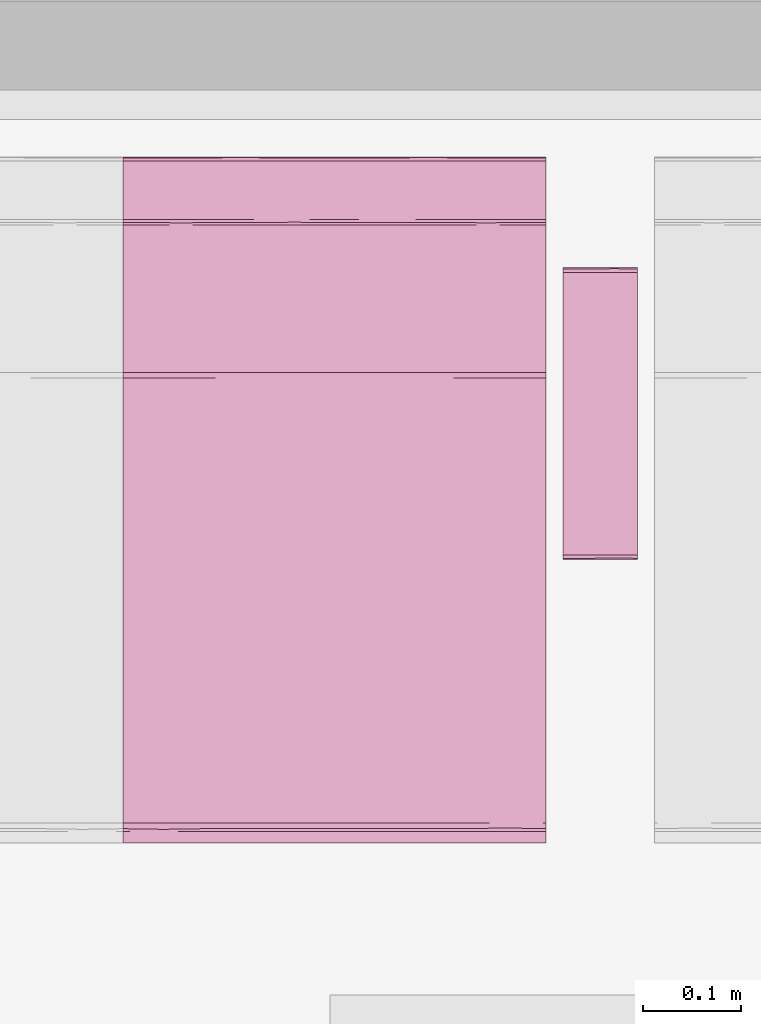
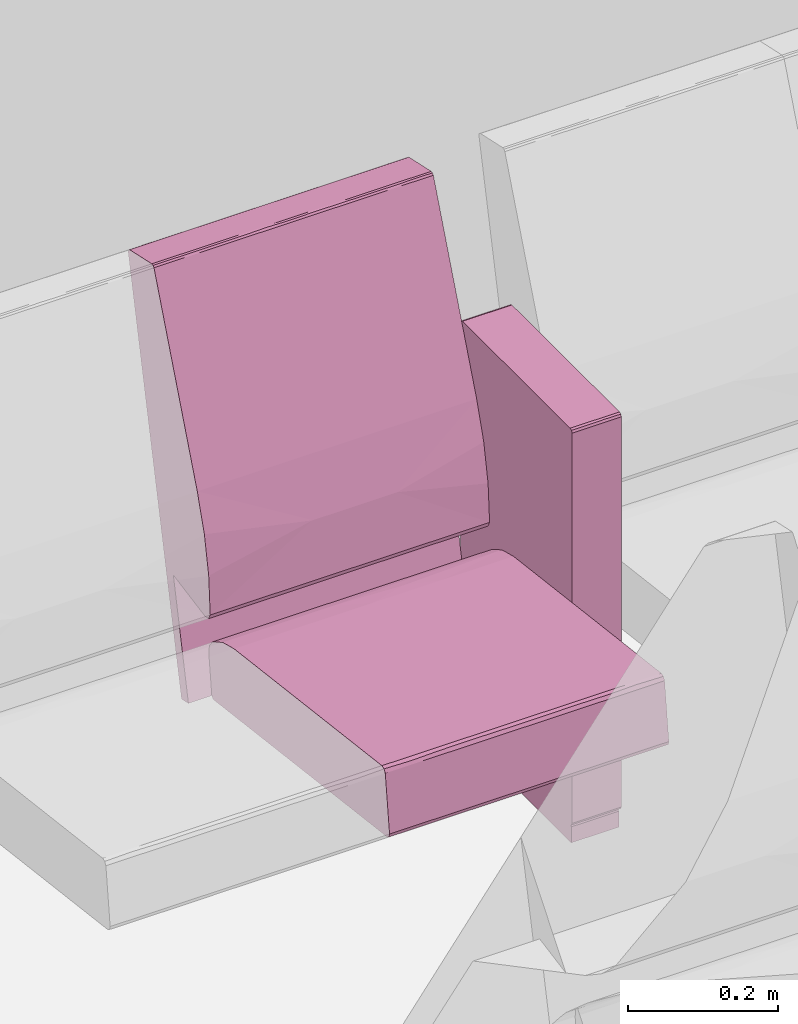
# One storey, part 126 of 155: 1 furnishing.
"""IFC2X3 building model written with IfcOpenShell, lengths in metres."""

import ifcopenshell
import ifcopenshell.guid

model = None  # the IFC model being written
_history = None  # IfcOwnerHistory: only IFC2X3 demands one
_inside = {}  # id of a spatial element -> (the spatial element, [elements in it])
_under = {}  # id of a project, library or spatial element -> (it, [spatial elements below it])
_declared = {}  # id of a project -> (the project, [libraries it declares])
_typed = {}  # id of a type object -> (the type object, [elements of that type])
_made_of = {}  # id of a material, layer set ... -> (it, [elements and type objects made of it])


def new_model(schema):
    """Start an empty IFC model of exactly this schema.

    Asked for "IFC4X3", IfcOpenShell would pick the latest addendum, in which some entities
    have other attributes; the version numbers below select the first issue.
    IFC2X3 requires an IfcOwnerHistory on every rooted entity: one is made here for all.
    """
    global model, _history
    if schema == "IFC4X3":
        model = ifcopenshell.file(schema_version=(4, 3, 0, 0))
    else:
        model = ifcopenshell.file(schema=schema)
    _inside.clear()
    _under.clear()
    _declared.clear()
    _typed.clear()
    _made_of.clear()
    _history = None
    if model.schema == "IFC2X3":
        org = make("IfcOrganization", Name="unknown")
        user = make(
            "IfcPersonAndOrganization",
            ThePerson=make("IfcPerson", FamilyName="unknown"),
            TheOrganization=org,
        )
        app = make(
            "IfcApplication",
            ApplicationDeveloper=org,
            Version="unknown",
            ApplicationFullName="unknown",
            ApplicationIdentifier="unknown",
        )
        _history = make(
            "IfcOwnerHistory",
            OwningUser=user,
            OwningApplication=app,
            ChangeAction="ADDED",
            CreationDate=0,
        )
    return model


def make(cls, **values):
    """One entity of the class cls with the attributes given. An attribute that is None is left unset."""
    return model.create_entity(
        cls, **{name: value for name, value in values.items() if value is not None}
    )


def entity(cls, *values):
    """Any entity or typed value of the class cls, its attributes in the order of the schema. None: left unset."""
    e = model.create_entity(cls)
    for i, value in enumerate(values):
        if value is not None:
            e[i] = value
    return e


def rooted(cls, **values):
    """An entity with a GlobalId (a new one), such as an element, a storey or a relation."""
    return make(cls, GlobalId=ifcopenshell.guid.new(), OwnerHistory=_history, **values)


def si_unit(unit_type, name, prefix=None):
    """IfcSIUnit, for example si_unit("LENGTHUNIT", "METRE", prefix="MILLI")."""
    return make("IfcSIUnit", UnitType=unit_type, Prefix=prefix, Name=name)


def converted_unit(unit_type, name, factor, base, dimensions=None, offset=None):
    """IfcConversionBasedUnit, such as the inch: factor (a typed value) times the base unit."""
    return make(
        "IfcConversionBasedUnit"
        if offset is None
        else "IfcConversionBasedUnitWithOffset",
        ConversionOffset=offset,
        Dimensions=None
        if dimensions is None
        else entity("IfcDimensionalExponents", *dimensions),
        UnitType=unit_type,
        Name=name,
        ConversionFactor=make(
            "IfcMeasureWithUnit", ValueComponent=factor, UnitComponent=base
        ),
    )


def derived_unit(unit_type, elements):
    """IfcDerivedUnit: a product of units, each with its exponent."""
    return make(
        "IfcDerivedUnit",
        Elements=[
            make("IfcDerivedUnitElement", Unit=unit, Exponent=power)
            for unit, power in elements
        ],
        UnitType=unit_type,
    )


def assignment(units):
    """IfcUnitAssignment: the units of a project."""
    return None if units is None else make("IfcUnitAssignment", Units=units)


def point(xyz):
    """IfcCartesianPoint."""
    return None if xyz is None else make("IfcCartesianPoint", Coordinates=xyz)


def direction(xyz):
    """IfcDirection."""
    return None if xyz is None else make("IfcDirection", DirectionRatios=xyz)


def frame(location, z_axis=None, x_axis=None):
    """IfcAxis2Placement3D, a coordinate frame: its origin and axes. An axis left out is left unset."""
    return make(
        "IfcAxis2Placement3D",
        Location=point(location),
        Axis=direction(z_axis),
        RefDirection=direction(x_axis),
    )


def origin():
    """The frame at (0, 0, 0) with its axes left unset."""
    return frame((0.0, 0.0, 0.0))


def place(relative_to, where):
    """IfcLocalPlacement: puts the frame where relative to a parent placement (None: the world)."""
    return make(
        "IfcLocalPlacement", PlacementRelTo=relative_to, RelativePlacement=where
    )


def context(
    kind, dimensions, precision=None, world=None, true_north=None, identifier=None
):
    """IfcGeometricRepresentationContext, for example the 3D "Model" context."""
    return make(
        "IfcGeometricRepresentationContext",
        ContextIdentifier=identifier,
        ContextType=kind,
        CoordinateSpaceDimension=dimensions,
        Precision=precision,
        WorldCoordinateSystem=world,
        TrueNorth=true_north,
    )


def subcontext(parent, identifier, kind, view, scale=None):
    """IfcGeometricRepresentationSubContext, for example "Body" below "Model"."""
    return make(
        "IfcGeometricRepresentationSubContext",
        ContextIdentifier=identifier,
        ContextType=kind,
        ParentContext=parent,
        TargetScale=scale,
        TargetView=view,
    )


def project(units=None, contexts=None):
    """IfcProject with its units and contexts."""
    return rooted(
        "IfcProject",
        Name="project",
        RepresentationContexts=contexts,
        UnitsInContext=assignment(units),
    )


def spatial(cls, under=None, at=None, **own):
    """A site, building, storey or space (cls), placed at a placement, below another one or the project."""
    s = rooted(cls, ObjectPlacement=at, **own)
    if under is not None:
        _under.setdefault(under.id(), (under, []))[1].append(s)
    return s


def faces_of(points, faces, orient=None, outer=None):
    """IfcFace entities. A face is a list of loops; a loop is a list of indices into points, from 0.

    orient and outer hold one flag for each loop. By default every Orientation is true, the
    first loop of a face is its IfcFaceOuterBound and the others are IfcFaceBound.
    """
    made = []
    for i, loops in enumerate(faces):
        bounds = []
        for j, loop in enumerate(loops):
            is_outer = j == 0 if outer is None else outer[i][j]
            bounds.append(
                make(
                    "IfcFaceOuterBound" if is_outer else "IfcFaceBound",
                    Bound=make("IfcPolyLoop", Polygon=[points[k] for k in loop]),
                    Orientation=True if orient is None else orient[i][j],
                )
            )
        made.append(make("IfcFace", Bounds=bounds))
    return made


def faceted_brep(points, faces, orient=None, outer=None, voids=None):
    """IfcFacetedBrep: a solid bounded by flat faces; with voids (closed shells), ...WithVoids."""
    shared = [point(p) for p in points]
    hull = make("IfcClosedShell", CfsFaces=faces_of(shared, faces, orient, outer))
    if voids is None:
        return make("IfcFacetedBrep", Outer=hull)
    return make(
        "IfcFacetedBrepWithVoids",
        Outer=hull,
        Voids=[
            make(cls, CfsFaces=faces_of(shared, fs, o, b)) for cls, fs, o, b in voids
        ],
    )


def shape(context_of_items, identifier, shape_type, items):
    """IfcShapeRepresentation: the items that make up one representation, for example the "Body"."""
    return make(
        "IfcShapeRepresentation",
        ContextOfItems=context_of_items,
        RepresentationIdentifier=identifier,
        RepresentationType=shape_type,
        Items=items,
    )


def source(mapping_origin, context_of_items, identifier, shape_type, items):
    """IfcRepresentationMap: a shape defined once, which mapped items show again and again."""
    return make(
        "IfcRepresentationMap",
        MappingOrigin=mapping_origin,
        MappedRepresentation=shape(context_of_items, identifier, shape_type, items),
    )


def transform(
    local_origin,
    x_axis=None,
    y_axis=None,
    z_axis=None,
    scale=None,
    scale2=None,
    scale3=None,
    uniform=True,
):
    """IfcCartesianTransformationOperator3D, or its non-uniform kind. x_axis, y_axis, z_axis: its Axis1, 2, 3."""
    if uniform:
        return make(
            "IfcCartesianTransformationOperator3D",
            Axis1=direction(x_axis),
            Axis2=direction(y_axis),
            LocalOrigin=point(local_origin),
            Scale=scale,
            Axis3=direction(z_axis),
        )
    return make(
        "IfcCartesianTransformationOperator3DnonUniform",
        Axis1=direction(x_axis),
        Axis2=direction(y_axis),
        LocalOrigin=point(local_origin),
        Scale=scale,
        Axis3=direction(z_axis),
        Scale2=scale2,
        Scale3=scale3,
    )


def mapped(mapping_source, mapping_target):
    """IfcMappedItem: shows the shape of a source again, moved by a transform."""
    return make(
        "IfcMappedItem", MappingSource=mapping_source, MappingTarget=mapping_target
    )


def material(Name=None, Category=None):
    """IfcMaterial."""
    return make("IfcMaterial", Name=Name, Category=Category)


def material_list(materials):
    """IfcMaterialList."""
    return make("IfcMaterialList", Materials=materials)


def made_of(thing, what):
    """Note that an element or type object is made of a material, layer set ...; save() writes the relation."""
    if what is not None:
        _made_of.setdefault(what.id(), (what, []))[1].append(thing)
    return thing


def type_object(cls, material=None, **own):
    """A type object (cls), such as IfcWallType, which elements share."""
    return made_of(rooted(cls, **own), material)


def type_shapes(of_type, sources):
    """Give a type object the sources (RepresentationMaps) that its elements show as mapped items."""
    of_type.RepresentationMaps = sources


def element(
    cls,
    number,
    at=None,
    inside=None,
    cuts=None,
    type_object=None,
    material=None,
    context=None,
    identifier="Body",
    shape_type=None,
    held_by="IfcProductDefinitionShape",
    body=None,
    shapes=None,
    **own,
):
    """One element of the class cls, such as IfcWall. Its Tag is "e" and its number.

    at: its placement. inside: the storey or other place that contains it. cuts: it is an
    opening in that element (IfcRelVoidsElement). A single representation is given by context,
    identifier, shape_type and body (its items); several are given by shapes. held_by: the class
    of the entity that holds the representations. save() writes the other relations.
    """
    e = rooted(cls, Tag="e%d" % number, ObjectPlacement=at, **own)
    if body is not None:
        shapes = [shape(context, identifier, shape_type, body)]
    if shapes is not None:
        e.Representation = make(held_by, Representations=shapes)
    if inside is not None:
        _inside.setdefault(inside.id(), (inside, []))[1].append(e)
    if cuts is not None:
        rooted(
            "IfcRelVoidsElement", RelatingBuildingElement=cuts, RelatedOpeningElement=e
        )
    if type_object is not None:
        _typed.setdefault(type_object.id(), (type_object, []))[1].append(e)
    return made_of(e, material)


def aggregate(whole, parts):
    """IfcRelAggregates: a whole, such as a stair, and the parts it consists of."""
    return rooted("IfcRelAggregates", RelatingObject=whole, RelatedObjects=parts)


def save(model, path):
    """Write the relations noted so far, then the file.

    IfcRelAggregates (storeys below a building ...), IfcRelContainedInSpatialStructure (elements
    in a storey), IfcRelDefinesByType, IfcRelAssociatesMaterial and IfcRelDeclares: one each for
    every whole, place, type object, material and project.
    """
    for whole, parts in _under.values():
        aggregate(whole, parts)
    for where, things in _inside.values():
        rooted(
            "IfcRelContainedInSpatialStructure",
            RelatedElements=things,
            RelatingStructure=where,
        )
    for kind, things in _typed.values():
        rooted("IfcRelDefinesByType", RelatedObjects=things, RelatingType=kind)
    for what, things in _made_of.values():
        rooted("IfcRelAssociatesMaterial", RelatedObjects=things, RelatingMaterial=what)
    for by, libraries in _declared.values():
        rooted("IfcRelDeclares", RelatingContext=by, RelatedDefinitions=libraries)
    model.write(path)


model = new_model("IFC2X3")

# Units and contexts
model_context = context("Model", 3, precision=1e-05, world=origin(), true_north=direction((6.12303176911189e-17, 1.0)))
body_context = subcontext(model_context, "Body", "Model", "MODEL_VIEW")
ifc_project = project(units=[si_unit("LENGTHUNIT", "METRE"), si_unit("AREAUNIT", "SQUARE_METRE"), si_unit("VOLUMEUNIT", "CUBIC_METRE"), converted_unit("PLANEANGLEUNIT", "DEGREE", entity("IfcRatioMeasure", 0.0174532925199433), si_unit("PLANEANGLEUNIT", "RADIAN"), dimensions=[0, 0, 0, 0, 0, 0, 0]), si_unit("MASSUNIT", "GRAM", prefix="KILO"), derived_unit("MASSDENSITYUNIT", [(si_unit("MASSUNIT", "GRAM", prefix="KILO"), 1), (si_unit("LENGTHUNIT", "METRE"), -3)]), si_unit("TIMEUNIT", "SECOND"), si_unit("FREQUENCYUNIT", "HERTZ"), si_unit("THERMODYNAMICTEMPERATUREUNIT", "DEGREE_CELSIUS"), derived_unit("THERMALTRANSMITTANCEUNIT", [(si_unit("MASSUNIT", "GRAM", prefix="KILO"), 1), (si_unit("THERMODYNAMICTEMPERATUREUNIT", "KELVIN"), -1), (si_unit("TIMEUNIT", "SECOND"), -3)]), derived_unit("VOLUMETRICFLOWRATEUNIT", [(si_unit("LENGTHUNIT", "METRE"), 3), (si_unit("TIMEUNIT", "SECOND"), -1)]), si_unit("ELECTRICCURRENTUNIT", "AMPERE"), si_unit("ELECTRICVOLTAGEUNIT", "VOLT"), si_unit("POWERUNIT", "WATT"), si_unit("FORCEUNIT", "NEWTON", prefix="KILO"), si_unit("ILLUMINANCEUNIT", "LUX"), si_unit("LUMINOUSFLUXUNIT", "LUMEN"), si_unit("LUMINOUSINTENSITYUNIT", "CANDELA"), derived_unit("USERDEFINED", [(si_unit("MASSUNIT", "GRAM", prefix="KILO"), -1), (si_unit("LENGTHUNIT", "METRE"), -2), (si_unit("TIMEUNIT", "SECOND"), 3), (si_unit("LUMINOUSFLUXUNIT", "LUMEN"), 1)]), derived_unit("LINEARVELOCITYUNIT", [(si_unit("LENGTHUNIT", "METRE"), 1), (si_unit("TIMEUNIT", "SECOND"), -1)]), si_unit("PRESSUREUNIT", "PASCAL"), derived_unit("USERDEFINED", [(si_unit("LENGTHUNIT", "METRE"), -2), (si_unit("MASSUNIT", "GRAM", prefix="KILO"), 1), (si_unit("TIMEUNIT", "SECOND"), -2)])], contexts=[model_context])

# Site, building, storey, space
site_placement = place(None, frame((26.9889013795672, -17.5624287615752, 0.0)))
site = spatial("IfcSite", under=ifc_project, at=site_placement, Name="Default", CompositionType="ELEMENT")
building_placement = place(site_placement, origin())
building = spatial("IfcBuilding", under=site, at=building_placement, Name="C. C. L. Monsenhor Antônio Sampaio", CompositionType="ELEMENT")
storey_placement = place(building_placement, frame((0.0, 0.0, 1.19999999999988)))
storey = spatial("IfcBuildingStorey", under=building, at=storey_placement, Name="Nível 1.2", CompositionType="ELEMENT", Elevation=1.19999999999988)
space_placement = place(storey_placement, origin())
space = spatial("IfcSpace", under=storey, at=space_placement, Name="94", CompositionType="ELEMENT", InteriorOrExteriorSpace="INTERNAL")

# Furnishing
ifc_material_1 = material(Name="V9 - V9 - Ecopelle_672_658")
ifc_material_2 = material(Name="V9 - V9 - RAL_9006_Grigio")
ifc_material_list_1 = material_list([ifc_material_1, ifc_material_2])
ifc_material_list_2 = material_list([ifc_material_1, ifc_material_2])
furniture_type = type_object("IfcFurnitureType", Name="Cadeira auditório", material=ifc_material_list_2)
shared_shape = source(origin(), body_context, "Body", "Brep", [
    faceted_brep([(0.405536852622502, -0.1075, 0.339809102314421), (0.410560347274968, -0.131924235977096, 0.34246450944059), (0.405536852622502, -0.156348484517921, 0.339809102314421), (0.41079981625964, -0.0179166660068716, 0.342749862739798), (0.410597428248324, -0.084060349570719, 0.342506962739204), (0.405536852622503, -0.0537499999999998, 0.339809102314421), (0.410248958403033, -0.173608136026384, 0.342130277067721), (0.405536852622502, -0.215, 0.339809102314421), (0.412515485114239, -0.143333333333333, 0.348529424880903), (0.412515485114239, -0.185674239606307, 0.348529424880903), (0.405536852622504, 0.1075, 0.33980910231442), (0.405536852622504, 0.156348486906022, 0.33980910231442), (0.410560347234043, 0.131924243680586, 0.342464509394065), (0.405536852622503, 0.0, 0.33980910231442), (0.411170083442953, 0.0341365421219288, 0.343251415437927), (0.41251548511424, 0.0, 0.348529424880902), (0.412515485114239, -0.0358333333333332, 0.348529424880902), (0.412515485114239, -0.0716666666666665, 0.348529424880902), (0.41251548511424, 0.143333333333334, 0.348529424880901), (0.41059742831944, 0.0840603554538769, 0.342506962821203), (0.405536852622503, 0.0537500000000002, 0.33980910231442), (0.410248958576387, 0.173608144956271, 0.342130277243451), (0.410799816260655, 0.215, 0.342749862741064), (0.412515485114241, 0.185674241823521, 0.348529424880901), (0.412515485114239, -0.215, 0.348529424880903), (0.410799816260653, -0.215, 0.342749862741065), (0.412515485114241, 0.215, 0.348529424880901), (0.41251548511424, 0.0716666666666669, 0.348529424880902), (0.405536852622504, 0.215, 0.33980910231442), (-0.0557900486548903, -0.215, 0.28268145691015), (-0.0557900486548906, -0.1881249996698, 0.282681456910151), (-0.0557900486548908, -0.161250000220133, 0.282681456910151), (-0.055790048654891, -0.134374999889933, 0.282681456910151), (-0.0557900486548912, -0.107499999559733, 0.282681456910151), (-0.0557900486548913, -0.0806250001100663, 0.282681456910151), (-0.0557900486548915, -0.0537499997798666, 0.282681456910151), (-0.0557900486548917, -0.0268749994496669, 0.282681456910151), (-0.0557900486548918, 0.0, 0.28268145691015), (-0.0557900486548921, 0.0268750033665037, 0.282681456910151), (-0.0557900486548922, 0.0537499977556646, 0.282681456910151), (-0.0557900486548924, 0.0806249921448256, 0.282681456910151), (-0.0557900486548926, 0.107499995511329, 0.282681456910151), (-0.0557900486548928, 0.138065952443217, 0.282681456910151), (-0.055790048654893, 0.168631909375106, 0.282681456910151), (-0.0557900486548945, 0.215, 0.28268145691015), (-0.0594787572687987, -0.0179017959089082, 0.283700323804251), (-0.0613666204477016, 0.0, 0.287029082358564), (-0.0594787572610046, 0.0152829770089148, 0.283700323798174), (-0.0594787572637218, -0.215, 0.283700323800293), (-0.0613666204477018, -0.215, 0.287029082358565), (-0.0613666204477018, -0.191815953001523, 0.287029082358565), (-0.0613666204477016, -0.030565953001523, 0.287029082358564), (-0.0593340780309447, -0.0671874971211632, 0.283591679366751), (-0.0593337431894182, 0.184174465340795, 0.283591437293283), (-0.0594787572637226, 0.215, 0.283700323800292), (-0.0593023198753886, 0.0940625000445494, 0.283568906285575), (-0.0613666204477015, 0.0611319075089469, 0.287029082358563), (-0.0613666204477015, 0.0916978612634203, 0.287029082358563), (-0.0613666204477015, 0.122263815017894, 0.287029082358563), (-0.0597338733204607, -0.147039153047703, 0.283913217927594), (-0.0613666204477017, -0.122263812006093, 0.287029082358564), (-0.059382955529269, -0.118123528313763, 0.28362747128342), (-0.0592501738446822, -0.180223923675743, 0.283532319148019), (-0.0613666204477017, -0.168631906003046, 0.287029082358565), (-0.0588783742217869, -0.0926899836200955, 0.283298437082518), (-0.0613666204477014, 0.168631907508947, 0.287029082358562), (-0.0613666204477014, 0.215, 0.287029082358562), (-0.0592576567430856, 0.123736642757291, 0.283537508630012), (-0.0594787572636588, 0.153348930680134, 0.283700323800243), (-0.0613666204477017, -0.0916978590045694, 0.287029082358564), (-0.0613666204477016, 0.0305659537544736, 0.287029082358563), (-0.059645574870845, 0.045848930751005, 0.283836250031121), (-0.0613666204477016, -0.0611319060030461, 0.287029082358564), (-0.0693403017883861, 0.143333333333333, 0.351419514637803), (-0.069340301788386, 0.215, 0.351419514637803), (-0.0693403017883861, -0.215, 0.351419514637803), (-0.0693403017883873, -0.143333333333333, 0.351419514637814), (-0.069340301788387, -0.0716666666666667, 0.351419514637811), (-0.0693403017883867, 0.0, 0.351419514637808), (-0.0693403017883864, 0.0716666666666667, 0.351419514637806), (-0.0653387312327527, -0.0126787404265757, 0.368680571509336), (-0.0645543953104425, -0.112272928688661, 0.369803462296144), (-0.0597085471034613, 0.0, 0.37476954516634), (-0.0655136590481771, 0.104400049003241, 0.368411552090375), (-0.0681665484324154, 0.0888707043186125, 0.36292533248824), (-0.0694879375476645, -0.0590582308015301, 0.356377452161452), (-0.0695056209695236, 0.125492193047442, 0.356093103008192), (-0.0597085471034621, 0.110316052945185, 0.374769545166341), (-0.0676206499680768, -0.215, 0.364371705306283), (-0.0672851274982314, -0.108066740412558, 0.365148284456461), (-0.0690003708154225, -0.132942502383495, 0.359900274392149), (-0.068624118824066, -0.215, 0.356813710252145), (-0.0686241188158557, 0.214999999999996, 0.356813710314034), (-0.0694502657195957, 0.0358333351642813, 0.356863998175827), (-0.0686999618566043, -0.035833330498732, 0.36116674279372), (-0.067620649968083, 0.214999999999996, 0.364371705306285), (-0.063664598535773, 0.214999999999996, 0.369570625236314), (-0.0597085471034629, 0.214999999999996, 0.374769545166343), (-0.0597085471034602, -0.110316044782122, 0.374769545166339), (-0.0636645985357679, -0.215, 0.36957062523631), (-0.0597085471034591, -0.215, 0.374769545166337), (-0.0018793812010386, -0.215, 0.398686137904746), (-0.0324117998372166, -0.0436847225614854, 0.39063968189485), (-0.0324117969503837, -0.215, 0.390639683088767), (-0.041847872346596, 0.0856576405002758, 0.386239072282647), (-0.00187938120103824, 0.102488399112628, 0.398686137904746), (-0.00187938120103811, 0.215, 0.398686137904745), (-0.0324117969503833, 0.215, 0.390639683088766), (-0.0219042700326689, 0.0570631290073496, 0.394412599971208), (-0.00187938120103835, 0.0, 0.398686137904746), (0.392202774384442, -0.215, 0.447486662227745), (0.392202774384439, -0.156349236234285, 0.447486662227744), (0.392202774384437, -0.107499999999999, 0.447486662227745), (0.392202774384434, -0.0537499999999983, 0.447486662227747), (0.392202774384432, 0.0, 0.447486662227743), (0.392202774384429, 0.0537500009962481, 0.44748666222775), (0.392202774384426, 0.107500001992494, 0.447486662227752), (0.392202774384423, 0.156349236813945, 0.447486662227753), (0.392202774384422, 0.215, 0.447486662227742), (0.397860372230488, 0.0827732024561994, 0.446039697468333), (0.401125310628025, 0.0976984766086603, 0.440530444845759), (0.398104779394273, 0.131924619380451, 0.445856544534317), (0.397373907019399, 0.173462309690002, 0.446363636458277), (0.401125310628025, 0.156349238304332, 0.440530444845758), (0.401125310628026, 0.215000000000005, 0.440530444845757), (0.398104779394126, 0.215000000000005, 0.445856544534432), (0.397860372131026, -0.0827731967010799, 0.446039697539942), (0.398104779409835, -0.131924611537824, 0.445856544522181), (0.398104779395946, -0.0268749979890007, 0.445856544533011), (0.398104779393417, 0.0237489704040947, 0.445856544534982), (0.401125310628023, -0.0488492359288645, 0.440530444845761), (0.401125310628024, 0.0488492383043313, 0.44053044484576), (0.398774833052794, -0.173462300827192, 0.445271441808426), (0.401125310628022, -0.0976984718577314, 0.440530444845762), (0.39810477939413, -0.215, 0.445856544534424), (0.401125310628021, -0.215, 0.440530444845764), (0.401125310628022, -0.156349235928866, 0.440530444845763), (0.401125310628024, 0.0, 0.44053044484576)], [[[0, 1, 2]], [[3, 4, 5]], [[2, 6, 7]], [[8, 9, 6]], [[10, 11, 12]], [[13, 3, 5]], [[3, 14, 15]], [[1, 4, 8]], [[6, 1, 8]], [[4, 3, 16]], [[16, 17, 8, 4]], [[12, 18, 19]], [[4, 1, 0]], [[20, 14, 13]], [[21, 22, 23]], [[15, 16, 3]], [[9, 24, 25]], [[26, 23, 22]], [[7, 6, 25]], [[12, 11, 21]], [[19, 14, 20]], [[4, 0, 5]], [[14, 27, 15]], [[13, 14, 3]], [[19, 18, 27]], [[19, 10, 12]], [[18, 21, 23]], [[10, 19, 20]], [[19, 27, 14]], [[2, 1, 6]], [[21, 11, 28]], [[25, 6, 9]], [[18, 12, 21]], [[22, 21, 28]], [[28, 11, 10, 20, 13, 5, 0, 2, 7, 29, 30, 31, 32, 33, 34, 35, 36, 37, 38, 39, 40, 41, 42, 43, 44]], [[45, 46, 47]], [[48, 49, 50]], [[51, 45, 52]], [[53, 54, 44]], [[55, 56, 57, 58]], [[59, 60, 61]], [[62, 63, 59]], [[34, 64, 52]], [[53, 65, 66]], [[41, 67, 42]], [[37, 36, 35, 45, 47, 38]], [[43, 42, 68]], [[29, 48, 30]], [[59, 31, 62]], [[62, 48, 50]], [[61, 69, 64]], [[65, 53, 68]], [[50, 63, 62]], [[62, 30, 48]], [[55, 58, 67]], [[32, 31, 59]], [[46, 70, 47]], [[65, 68, 58]], [[55, 40, 71]], [[70, 56, 71]], [[61, 33, 32]], [[59, 63, 60]], [[39, 38, 71, 40]], [[47, 71, 38]], [[51, 46, 45]], [[70, 71, 47]], [[71, 56, 55]], [[40, 55, 41]], [[67, 68, 42]], [[43, 68, 53]], [[43, 53, 44]], [[66, 54, 53]], [[68, 67, 58]], [[55, 67, 41]], [[72, 51, 52, 69]], [[62, 31, 30]], [[59, 61, 32]], [[35, 52, 45]], [[64, 34, 33]], [[34, 52, 35]], [[61, 60, 69]], [[52, 64, 69]], [[61, 64, 33]], [[73, 74, 66, 65, 58, 57, 56, 70, 46, 51, 72, 69, 60, 63, 50, 49, 75, 76, 77, 78, 79]], [[80, 81, 82]], [[83, 84, 80]], [[85, 78, 77, 76]], [[73, 79, 86]], [[80, 82, 83]], [[87, 83, 82]], [[88, 89, 90]], [[76, 75, 91]], [[92, 74, 73]], [[91, 90, 85]], [[80, 89, 81]], [[84, 93, 94]], [[84, 86, 93]], [[93, 78, 85]], [[73, 86, 92]], [[94, 93, 85]], [[95, 92, 84]], [[78, 93, 79]], [[80, 84, 94]], [[83, 96, 95]], [[94, 85, 90]], [[87, 97, 96]], [[98, 99, 100]], [[91, 85, 76]], [[94, 90, 89]], [[90, 91, 88]], [[89, 80, 94]], [[89, 99, 81]], [[89, 88, 99]], [[82, 81, 98]], [[81, 99, 98]], [[92, 86, 84]], [[93, 86, 79]], [[84, 83, 95]], [[96, 83, 87]], [[101, 102, 103]], [[104, 97, 87, 82]], [[105, 106, 107]], [[107, 108, 105]], [[109, 102, 101]], [[82, 102, 104]], [[102, 108, 104]], [[103, 102, 100]], [[97, 104, 107]], [[104, 108, 107]], [[102, 82, 98, 100]], [[105, 108, 109]], [[108, 102, 109]], [[109, 101, 110, 111, 112, 113, 114, 115, 116, 117, 118, 106, 105]], [[119, 120, 121]], [[122, 123, 124]], [[122, 125, 118]], [[126, 113, 112]], [[117, 121, 122]], [[121, 117, 116]], [[112, 111, 127]], [[113, 128, 129, 115, 114]], [[126, 130, 128]], [[129, 131, 119]], [[111, 132, 127]], [[132, 111, 110]], [[133, 126, 127]], [[123, 122, 121]], [[132, 134, 135]], [[127, 132, 136]], [[123, 121, 120]], [[127, 136, 133]], [[129, 128, 130, 137, 131]], [[112, 127, 126]], [[126, 133, 130]], [[119, 121, 116]], [[113, 126, 128]], [[119, 115, 129]], [[119, 116, 115]], [[120, 119, 131]], [[117, 122, 118]], [[124, 125, 122]], [[136, 132, 135]], [[110, 134, 132]], [[137, 130, 133, 136, 135, 24, 9, 8, 17, 16, 15, 27, 18, 23, 26, 124, 123, 120, 131]], [[44, 54, 66, 74, 92, 95, 96, 97, 107, 106, 118, 125, 124, 26, 22, 28]], [[75, 49, 48, 29, 7, 25, 24, 135, 134, 110, 101, 103, 100, 99, 88, 91]]]),
    faceted_brep([(0.119812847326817, 0.27, 0.674900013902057), (0.12334838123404, 0.259944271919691, 0.6734355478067), (0.123144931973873, 0.283972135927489, 0.673627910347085), (0.124812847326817, 0.27, 0.669900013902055), (0.119812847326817, 0.232, 0.674900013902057), (0.12334838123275, 0.232, 0.673435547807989), (0.124812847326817, 0.308, 0.669900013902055), (0.119812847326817, 0.308, 0.674900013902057), (0.124812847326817, 0.249888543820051, 0.669900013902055), (0.124812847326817, 0.232, 0.669900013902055), (0.12334838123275, 0.308, 0.673435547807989), (0.124812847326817, 0.232, 0.0349999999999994), (0.124812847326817, 0.27, 0.035), (0.124812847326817, 0.308, 0.035), (0.12334838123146, 0.25994427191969, 0.0314644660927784), (0.123540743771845, 0.283972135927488, 0.0316679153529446), (0.119812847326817, 0.27, 0.0300000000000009), (0.12334838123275, 0.232, 0.0314644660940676), (0.119812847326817, 0.308, 0.0300000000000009), (0.119812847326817, 0.249888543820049, 0.030000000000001), (0.119812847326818, 0.232, 0.030000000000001), (0.123348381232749, 0.308, 0.0314644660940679), (-0.167179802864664, 0.27, 0.0300000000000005), (-0.167179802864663, 0.308, 0.0300000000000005), (-0.167179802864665, 0.232, 0.0300000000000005), (-0.170715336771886, 0.25994427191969, 0.0314644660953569), (-0.17051188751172, 0.283972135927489, 0.0312721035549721), (-0.172179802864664, 0.27, 0.0350000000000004), (-0.170715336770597, 0.232, 0.0314644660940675), (-0.172179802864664, 0.308, 0.0350000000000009), (-0.172179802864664, 0.24988854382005, 0.0350000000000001), (-0.172179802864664, 0.232, 0.0349999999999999), (-0.170715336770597, 0.308, 0.0314644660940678), (-0.172179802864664, 0.308, 0.669900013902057), (-0.172179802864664, 0.232, 0.669900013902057), (-0.172179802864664, 0.27, 0.669900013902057), (-0.170715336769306, 0.259944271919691, 0.673435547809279), (-0.170907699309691, 0.283972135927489, 0.673232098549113), (-0.167179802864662, 0.27, 0.674900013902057), (-0.170715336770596, 0.232, 0.67343554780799), (-0.167179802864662, 0.308, 0.674900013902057), (-0.167179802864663, 0.249888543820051, 0.674900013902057), (-0.167179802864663, 0.232, 0.674900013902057), (-0.170715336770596, 0.308, 0.67343554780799)], [[[0, 1, 2]], [[3, 2, 1]], [[0, 4, 5, 1]], [[2, 3, 6]], [[0, 2, 7]], [[8, 3, 1, 5, 9]], [[7, 2, 10]], [[6, 10, 2]], [[9, 11, 12, 13, 6, 3, 8]], [[12, 14, 15]], [[16, 15, 14]], [[12, 11, 17, 14]], [[15, 16, 18]], [[12, 15, 13]], [[19, 16, 14, 17, 20]], [[13, 15, 21]], [[18, 21, 15]], [[22, 23, 18, 16, 19, 20, 24]], [[22, 25, 26]], [[27, 26, 25]], [[22, 24, 28, 25]], [[26, 27, 29]], [[22, 26, 23]], [[30, 27, 25, 28, 31]], [[23, 26, 32]], [[29, 32, 26]], [[33, 29, 27, 30, 31, 34, 35]], [[35, 36, 37]], [[38, 37, 36]], [[35, 34, 39, 36]], [[37, 38, 40]], [[35, 37, 33]], [[41, 38, 36, 39, 42]], [[33, 37, 43]], [[40, 43, 37]], [[0, 7, 40, 38, 41, 42, 4]], [[42, 39, 34, 31, 28, 24, 20, 17, 11, 9, 5, 4]], [[23, 32, 29, 33, 43, 40, 7, 10, 6, 13, 21, 18]]]),
    faceted_brep([(-0.0655618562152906, -0.215, 0.415143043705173), (-0.0744051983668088, -0.0524423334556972, 0.506888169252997), (-0.0695672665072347, -0.215, 0.476508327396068), (-0.0655618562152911, 0.0, 0.415143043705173), (-0.0744051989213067, 0.0780075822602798, 0.506888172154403), (-0.0655618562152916, 0.1075, 0.415143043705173), (-0.0655618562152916, 0.215, 0.415143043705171), (-0.0655618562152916, -0.1075, 0.415143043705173), (-0.0695672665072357, 0.215, 0.476508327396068), (-0.0811110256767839, 0.215, 0.536911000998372), (-0.0811110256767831, -0.215, 0.536911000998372), (-0.100016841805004, 0.0, 0.595428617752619), (-0.100016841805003, -0.215, 0.595428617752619), (-0.100016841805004, 0.215, 0.595428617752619), (-0.0792851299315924, -0.0716666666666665, 0.404772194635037), (-0.0792851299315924, 0.0, 0.404772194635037), (-0.0698317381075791, -0.0358333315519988, 0.406528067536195), (-0.0698317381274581, 0.215, 0.406528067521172), (-0.0792851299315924, 0.143333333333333, 0.404772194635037), (-0.0792851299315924, 0.215, 0.404772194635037), (-0.0698317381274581, -0.215, 0.406528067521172), (-0.0792851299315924, -0.215, 0.404772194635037), (-0.0792851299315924, -0.143333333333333, 0.404772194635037), (-0.0694171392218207, -0.140338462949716, 0.406857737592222), (-0.0708115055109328, 0.0356393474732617, 0.405868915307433), (-0.0703502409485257, 0.107500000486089, 0.406159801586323), (-0.0792851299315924, 0.0716666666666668, 0.404772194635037), (-0.163837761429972, 0.215, 0.420611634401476), (-0.163837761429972, -0.215, 0.420611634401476), (-0.123612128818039, -0.215, 0.235917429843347), (-0.123612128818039, 0.215, 0.235917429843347), (-0.142059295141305, -0.215, 0.231899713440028), (-0.142059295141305, 0.215, 0.231899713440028), (-0.235388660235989, -0.215, 0.652619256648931), (-0.235388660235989, 0.215, 0.652619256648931), (-0.28428001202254, 0.0, 0.873004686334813), (-0.284280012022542, 0.0268749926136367, 0.873004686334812), (-0.284280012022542, 0.0537499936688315, 0.873004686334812), (-0.284280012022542, 0.0806249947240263, 0.873004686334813), (-0.284280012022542, 0.107499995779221, 0.873004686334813), (-0.284280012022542, 0.134374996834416, 0.873004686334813), (-0.284280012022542, 0.161249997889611, 0.873004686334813), (-0.284280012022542, 0.191295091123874, 0.873004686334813), (-0.28428001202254, 0.215, 0.873004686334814), (-0.284280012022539, -0.215, 0.873004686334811), (-0.28428001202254, -0.191295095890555, 0.873004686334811), (-0.284280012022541, -0.161249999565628, 0.873004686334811), (-0.284280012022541, -0.134374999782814, 0.873004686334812), (-0.284280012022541, -0.1075, 0.873004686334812), (-0.284280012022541, -0.0806250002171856, 0.873004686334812), (-0.284280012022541, -0.0537500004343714, 0.873004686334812), (-0.284280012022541, -0.0268749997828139, 0.873004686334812), (-0.283504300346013, -0.0569644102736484, 0.877068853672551), (-0.283746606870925, -0.0872244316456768, 0.876674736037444), (-0.283641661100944, 0.12093750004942, 0.876855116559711), (-0.283567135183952, 0.15546176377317, 0.876973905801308), (-0.28330409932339, -0.185293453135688, 0.877344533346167), (-0.283567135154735, -0.155461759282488, 0.876973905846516), (-0.280514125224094, 0.0, 0.879190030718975), (-0.280514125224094, 0.0358333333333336, 0.879190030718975), (-0.283641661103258, 0.0136463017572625, 0.876855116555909), (-0.283641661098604, -0.0179166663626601, 0.876855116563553), (-0.280514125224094, -0.0358333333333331, 0.879190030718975), (-0.280514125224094, 0.1075, 0.879190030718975), (-0.280514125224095, 0.143333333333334, 0.879190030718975), (-0.283746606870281, 0.0872244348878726, 0.876674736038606), (-0.280514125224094, 0.071666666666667, 0.879190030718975), (-0.280514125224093, -0.1075, 0.879190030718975), (-0.280514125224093, -0.0716666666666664, 0.879190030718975), (-0.280514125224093, -0.143333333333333, 0.879190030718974), (-0.283641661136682, -0.120937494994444, 0.876855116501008), (-0.283641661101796, -0.215, 0.876855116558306), (-0.283641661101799, 0.215, 0.876855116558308), (-0.280514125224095, 0.167590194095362, 0.879190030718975), (-0.283304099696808, 0.18529345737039, 0.877344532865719), (-0.280514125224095, 0.215, 0.879190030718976), (-0.280514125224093, -0.167590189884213, 0.879190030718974), (-0.280514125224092, -0.215, 0.879190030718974), (-0.283504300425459, 0.0569644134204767, 0.8770688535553), (-0.221112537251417, -0.215, 0.892176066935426), (-0.221112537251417, -0.19181594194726, 0.892176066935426), (-0.221112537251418, -0.16124999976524, 0.892176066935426), (-0.221112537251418, -0.13437499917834, 0.892176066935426), (-0.221112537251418, -0.10749999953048, 0.892176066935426), (-0.221112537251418, -0.08062499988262, 0.892176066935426), (-0.221112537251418, -0.0537500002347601, 0.892176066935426), (-0.221112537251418, -0.0268750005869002, 0.892176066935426), (-0.221112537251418, 0.0, 0.892176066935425), (-0.221112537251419, 0.0268750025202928, 0.892176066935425), (-0.221112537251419, 0.053749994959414, 0.892176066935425), (-0.221112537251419, 0.0806249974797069, 0.892176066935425), (-0.221112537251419, 0.1075, 0.892176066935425), (-0.221112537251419, 0.134375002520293, 0.892176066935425), (-0.221112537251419, 0.161250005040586, 0.892176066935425), (-0.221112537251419, 0.191815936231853, 0.892176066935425), (-0.221112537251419, 0.215, 0.892176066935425), (-0.217722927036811, -0.0162353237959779, 0.891719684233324), (-0.215419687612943, -0.0358333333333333, 0.889191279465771), (-0.215419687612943, 0.0, 0.889191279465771), (-0.217722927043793, 0.0134375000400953, 0.891719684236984), (-0.217722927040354, 0.120937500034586, 0.89171968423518), (-0.217722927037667, 0.0912646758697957, 0.891719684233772), (-0.215419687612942, 0.0716666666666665, 0.88919127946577), (-0.215419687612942, 0.1075, 0.88919127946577), (-0.215419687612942, 0.143333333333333, 0.88919127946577), (-0.217722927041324, 0.215, 0.891719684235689), (-0.217722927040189, 0.182482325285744, 0.891719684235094), (-0.215419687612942, 0.168631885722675, 0.889191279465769), (-0.215419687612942, 0.191815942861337, 0.889191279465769), (-0.215419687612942, 0.215, 0.889191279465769), (-0.217722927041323, -0.215, 0.89171968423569), (-0.215419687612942, -0.215, 0.889191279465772), (-0.215419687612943, -0.191815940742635, 0.889191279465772), (-0.217722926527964, -0.190103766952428, 0.891719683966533), (-0.2179983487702, 0.039082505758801, 0.891853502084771), (-0.217816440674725, 0.0647800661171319, 0.891767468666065), (-0.217558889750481, 0.155982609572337, 0.891629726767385), (-0.217722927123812, -0.120937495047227, 0.891719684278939), (-0.217558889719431, -0.15598260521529, 0.891629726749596), (-0.215419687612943, -0.143333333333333, 0.889191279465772), (-0.215419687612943, -0.16863188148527, 0.889191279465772), (-0.215419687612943, -0.0716666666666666, 0.889191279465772), (-0.217816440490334, -0.0647800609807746, 0.891767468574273), (-0.217722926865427, -0.0912646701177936, 0.891719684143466), (-0.215419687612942, 0.0358333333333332, 0.889191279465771), (-0.215419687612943, -0.1075, 0.889191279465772), (-0.218257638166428, -0.0404491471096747, 0.891961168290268)], [[[0, 1, 2]], [[3, 4, 1]], [[4, 3, 5, 6]], [[1, 0, 7, 3]], [[8, 4, 6]], [[9, 4, 8]], [[1, 10, 2]], [[1, 11, 12]], [[9, 13, 4]], [[13, 11, 4]], [[10, 1, 12]], [[11, 1, 4]], [[14, 15, 16]], [[17, 18, 19]], [[20, 21, 22]], [[20, 23, 0]], [[3, 7, 16]], [[15, 24, 16]], [[24, 25, 5]], [[22, 23, 20]], [[7, 23, 16]], [[6, 5, 17]], [[16, 24, 3]], [[16, 23, 14]], [[23, 22, 14]], [[18, 25, 26]], [[18, 17, 25]], [[26, 24, 15]], [[7, 0, 23]], [[5, 25, 17]], [[25, 24, 26]], [[3, 24, 5]], [[27, 19, 18, 26, 15, 14, 22, 21, 28]], [[27, 28, 29, 30]], [[31, 32, 30, 29]], [[33, 34, 32, 31]], [[35, 36, 37, 38, 39, 40, 41, 42, 43, 34, 33, 44, 45, 46, 47, 48, 49, 50, 51]], [[52, 49, 53]], [[54, 55, 40]], [[46, 56, 57]], [[58, 59, 60, 61, 62]], [[54, 63, 64]], [[65, 66, 63]], [[67, 68, 53]], [[57, 69, 70]], [[45, 56, 46]], [[39, 54, 40]], [[45, 44, 71]], [[72, 43, 42]], [[35, 51, 61, 60, 36]], [[55, 73, 74]], [[39, 65, 54]], [[74, 73, 75]], [[67, 53, 70]], [[74, 42, 41]], [[64, 73, 55]], [[56, 76, 57]], [[74, 72, 42]], [[76, 56, 77]], [[56, 71, 77]], [[57, 76, 69]], [[48, 70, 53]], [[70, 48, 47]], [[60, 78, 36]], [[63, 54, 65]], [[71, 56, 45]], [[41, 55, 74]], [[72, 74, 75]], [[57, 70, 47]], [[47, 46, 57]], [[69, 67, 70]], [[50, 49, 52, 51]], [[52, 62, 61]], [[61, 51, 52]], [[55, 41, 40]], [[55, 54, 64]], [[66, 65, 78]], [[65, 38, 78]], [[52, 53, 68]], [[37, 36, 78, 38]], [[78, 59, 66]], [[59, 78, 60]], [[49, 48, 53]], [[65, 39, 38]], [[52, 68, 62]], [[79, 80, 81, 82, 83, 84, 85, 86, 87, 88, 89, 90, 91, 92, 93, 94, 95, 75, 73, 64, 63, 66, 59, 58, 62, 68, 67, 69, 76, 77]], [[96, 97, 98, 99]], [[100, 101, 102, 103, 104]], [[105, 106, 107, 108, 109]], [[110, 111, 112]], [[80, 110, 113]], [[89, 114, 115]], [[92, 116, 93]], [[94, 93, 106, 105, 95]], [[80, 79, 110]], [[92, 91, 90, 101, 100]], [[99, 88, 87, 86, 96]], [[104, 107, 116]], [[117, 83, 82]], [[117, 118, 119]], [[112, 120, 113]], [[118, 120, 119]], [[118, 81, 113]], [[116, 107, 106]], [[101, 90, 115]], [[121, 122, 123]], [[104, 116, 100]], [[110, 112, 113]], [[114, 99, 124]], [[92, 100, 116]], [[117, 125, 123]], [[82, 81, 118]], [[118, 117, 82]], [[83, 117, 123]], [[125, 117, 119]], [[102, 101, 115]], [[84, 83, 123]], [[123, 125, 121]], [[85, 84, 122]], [[89, 115, 90]], [[96, 86, 126]], [[124, 102, 115]], [[88, 99, 114]], [[99, 98, 124]], [[122, 121, 97]], [[126, 122, 97]], [[88, 114, 89]], [[115, 114, 124]], [[123, 122, 84]], [[126, 85, 122]], [[85, 126, 86]], [[96, 126, 97]], [[116, 106, 93]], [[80, 113, 81]], [[118, 113, 120]], [[12, 11, 13, 109, 108, 107, 104, 103, 102, 124, 98, 97, 121, 125, 119, 120, 112, 111]], [[30, 32, 34, 43, 72, 75, 95, 105, 109, 13, 9, 8, 6, 17, 19, 27]], [[77, 71, 44, 33, 31, 29, 28, 21, 20, 0, 2, 10, 12, 111, 110, 79]]]),
    faceted_brep([(0.120312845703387, 0.2335, 0.0), (0.120312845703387, 0.3065, 0.0), (0.120312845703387, 0.3065, 0.0260000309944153), (0.120312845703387, 0.27, 0.0260000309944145), (0.120312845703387, 0.249500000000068, 0.0260000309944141), (0.120312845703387, 0.2335, 0.0260000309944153), (-0.167687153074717, 0.2335, 0.0), (-0.167687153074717, 0.3065, 0.0), (-0.167687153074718, 0.3065, 0.0260000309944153), (-0.167687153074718, 0.2335, 0.0260000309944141), (-0.167687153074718, 0.27, 0.0260000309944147), (-0.163702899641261, 0.233500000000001, 0.0300000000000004), (-0.166521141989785, 0.257382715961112, 0.0288228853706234), (-0.166521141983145, 0.233500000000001, 0.0288228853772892), (-0.166521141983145, 0.3065, 0.0288228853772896), (-0.16652114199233, 0.279986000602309, 0.0288228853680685), (-0.163702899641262, 0.3065, 0.0300000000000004), (-0.163702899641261, 0.27, 0.0300000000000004), (0.116297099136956, 0.2335, 0.0300000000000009), (0.116297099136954, 0.270000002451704, 0.0300000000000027), (0.116297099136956, 0.3065, 0.0300000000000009), (0.119033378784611, 0.283124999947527, 0.0289323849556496), (0.119135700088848, 0.259750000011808, 0.0288340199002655), (0.1191357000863, 0.2335, 0.0288340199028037), (0.119135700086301, 0.3065, 0.0288340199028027)], [[[0, 1, 2, 3, 4, 5]], [[6, 7, 1, 0]], [[8, 7, 6, 9, 10]], [[11, 12, 13]], [[14, 15, 16]], [[17, 16, 15, 12, 11]], [[13, 12, 10, 9]], [[8, 15, 14]], [[12, 15, 8, 10]], [[16, 17, 11, 18, 19, 20]], [[3, 2, 21]], [[22, 19, 18, 23]], [[22, 23, 5, 4, 3]], [[20, 21, 24]], [[22, 3, 21]], [[19, 21, 20]], [[2, 24, 21]], [[19, 22, 21]], [[20, 24, 2, 1, 7, 8, 14, 16]], [[18, 11, 13, 9, 6, 0, 5, 23]]]),
])
type_shapes(furniture_type, [shared_shape])
furnishing_placement = place(space_placement, frame((-8.60594929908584, -10.4255921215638, 0.0), z_axis=(0.0, 0.0, 1.0), x_axis=(0.0, -1.0, 0.0)))
element("IfcFurnishingElement", 1, at=furnishing_placement, inside=space, type_object=furniture_type, material=ifc_material_list_1, Name="cadeira auditório pcd:Cadeira auditório", ObjectType="Cadeira auditório", context=body_context, shape_type="MappedRepresentation", body=[
    mapped(shared_shape, transform((0.0, 0.0, 0.0), scale=1.0)),
])

save(model, "model.ifc")
